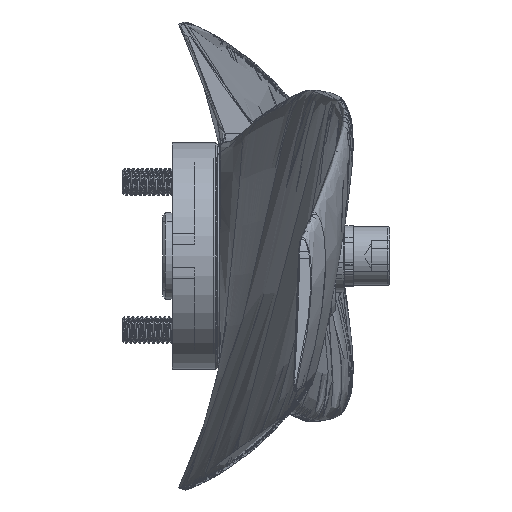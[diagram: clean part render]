
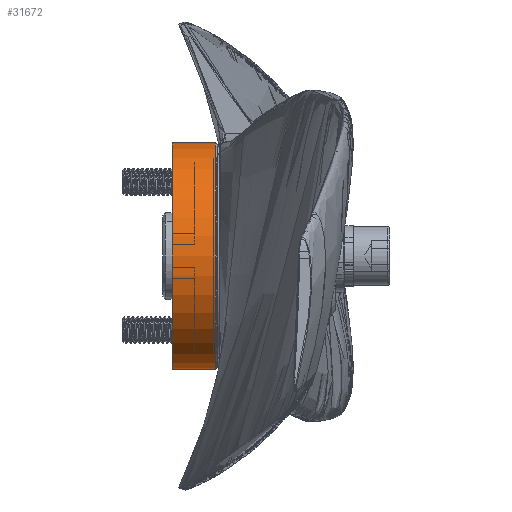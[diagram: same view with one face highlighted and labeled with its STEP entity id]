
A CAD part, left-side view. The second image highlights one B-rep face of the part: STEP entity #31672.
In plain terms, the highlighted cylindrical face has radius 25 mm (diameter 50 mm), a partial arc.
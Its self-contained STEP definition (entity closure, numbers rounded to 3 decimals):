
#1048 = VERTEX_POINT ( 'NONE', #112863 ) ;
#6699 = FACE_OUTER_BOUND ( 'NONE', #173452, .T. ) ;
#6759 = CIRCLE ( 'NONE', #223708, 25. ) ;
#13324 = ORIENTED_EDGE ( 'NONE', *, *, #53677, .T. ) ;
#17277 = CIRCLE ( 'NONE', #286052, 25. ) ;
#31672 = ADVANCED_FACE ( 'NONE', ( #6699 ), #117460, .T. ) ;
#38079 = DIRECTION ( 'NONE',  ( 0., 1., 0. ) ) ;
#46741 = VERTEX_POINT ( 'NONE', #99398 ) ;
#48099 = DIRECTION ( 'NONE',  ( 0., -1., 0. ) ) ;
#53677 = EDGE_CURVE ( 'NONE', #110360, #1048, #175278, .T. ) ;
#58126 = VERTEX_POINT ( 'NONE', #244322 ) ;
#63022 = CARTESIAN_POINT ( 'NONE',  ( -52.5, 4., -25. ) ) ;
#71691 = DIRECTION ( 'NONE',  ( 0., -1., 0. ) ) ;
#76084 = DIRECTION ( 'NONE',  ( 0., 0., -1. ) ) ;
#84487 = AXIS2_PLACEMENT_3D ( 'NONE', #96741, #71691, #76084 ) ;
#96741 = CARTESIAN_POINT ( 'NONE',  ( -52.5, 4., 0. ) ) ;
#99398 = CARTESIAN_POINT ( 'NONE',  ( -52.5, 10., 25. ) ) ;
#103677 = VECTOR ( 'NONE', #48099, 1000. ) ;
#107570 = ORIENTED_EDGE ( 'NONE', *, *, #290745, .F. ) ;
#110360 = VERTEX_POINT ( 'NONE', #164455 ) ;
#112863 = CARTESIAN_POINT ( 'NONE',  ( -52.5, 0.5, -25. ) ) ;
#117460 = CYLINDRICAL_SURFACE ( 'NONE', #84487, 25. ) ;
#145826 = CARTESIAN_POINT ( 'NONE',  ( -52.5, 4., 25. ) ) ;
#159704 = DIRECTION ( 'NONE',  ( 0., 0., 1. ) ) ;
#160359 = EDGE_CURVE ( 'NONE', #1048, #58126, #17277, .T. ) ;
#164455 = CARTESIAN_POINT ( 'NONE',  ( -52.5, 10., -25. ) ) ;
#173452 = EDGE_LOOP ( 'NONE', ( #13324, #259150, #107570, #264986 ) ) ;
#175278 = LINE ( 'NONE', #63022, #103677 ) ;
#198222 = CARTESIAN_POINT ( 'NONE',  ( -52.5, 0.5, 0. ) ) ;
#215207 = LINE ( 'NONE', #145826, #249487 ) ;
#215352 = CARTESIAN_POINT ( 'NONE',  ( -52.5, 10., 0. ) ) ;
#223708 = AXIS2_PLACEMENT_3D ( 'NONE', #215352, #38079, #283265 ) ;
#229082 = EDGE_CURVE ( 'NONE', #110360, #46741, #6759, .T. ) ;
#235911 = DIRECTION ( 'NONE',  ( 0., -1., 0. ) ) ;
#244322 = CARTESIAN_POINT ( 'NONE',  ( -52.5, 0.5, 25. ) ) ;
#249487 = VECTOR ( 'NONE', #235911, 1000. ) ;
#259150 = ORIENTED_EDGE ( 'NONE', *, *, #160359, .T. ) ;
#264986 = ORIENTED_EDGE ( 'NONE', *, *, #229082, .F. ) ;
#283265 = DIRECTION ( 'NONE',  ( 0., 0., 1. ) ) ;
#286052 = AXIS2_PLACEMENT_3D ( 'NONE', #198222, #288302, #159704 ) ;
#288302 = DIRECTION ( 'NONE',  ( 0., 1., 0. ) ) ;
#290745 = EDGE_CURVE ( 'NONE', #46741, #58126, #215207, .T. ) ;
